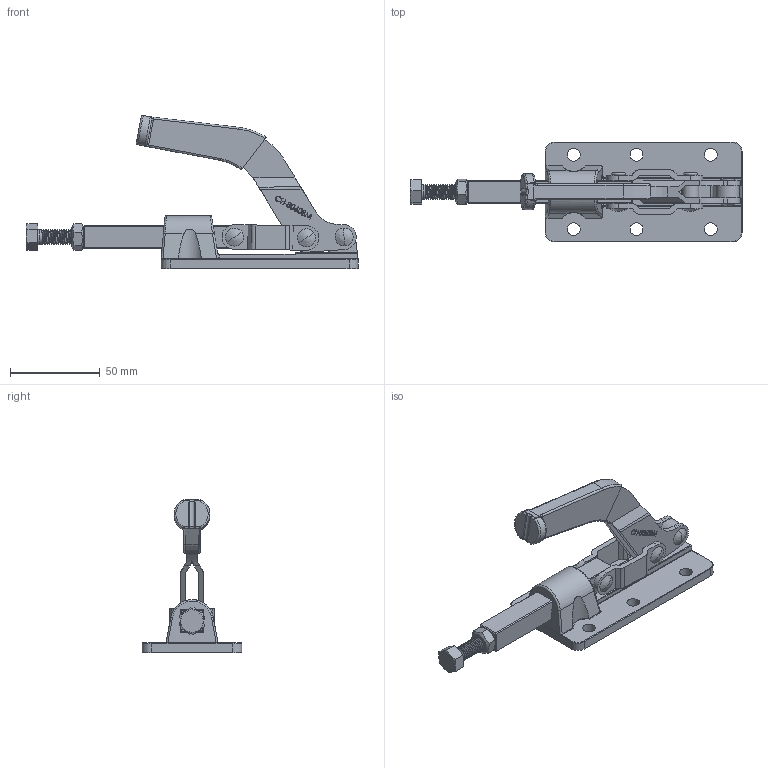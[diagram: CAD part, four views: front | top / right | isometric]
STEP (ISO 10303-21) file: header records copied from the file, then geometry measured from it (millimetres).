
FILE_DESCRIPTION(/* description */ ('STEP AP203'),/* implementation_level */ '2;1');
FILE_NAME(/* name */ 'D:\Vault_2016\Projekty\STRONA\Push-pull clamp\CH-30608M\CH-30608M_ZAMKNIETY.stp',/* time_stamp */ '2019-01-10T16:38:18+01:00',/* author */ ('user'),/* organization */ ('Î¢ÈíÖÐ¹ú'),/* preprocessor_version */ 'ST-DEVELOPER v17.2',/* originating_system */ 'Autodesk Inventor 2019',/* authorisation */ '');
FILE_SCHEMA (('AUTOMOTIVE_DESIGN { 1 0 10303 214 3 1 1 }'));
Products named in the file (10): CH-30608M_ZAMKNIETY; CH-SA-085012 SPINDLE SUPPLIED; CH-30607-05; CH-30608-02 CREST STALK; M8 NUT; CH-30608-03 HANDLE; CH-30607-04 CONNECTING-PLATE; CH-30608-01 BASE; CH-30607-06; CH-30607-07
Assembly tree (11 placements, depth 2):
  CH-30608M_ZAMKNIETY
    CH-SA-085012 SPINDLE SUPPLIED
    CH-30607-05
    CH-30607-07  x2
    CH-30608-02 CREST STALK
    M8 NUT
    CH-30607-04 CONNECTING-PLATE  x2
    CH-30608-03 HANDLE
    CH-30608-01 BASE
    CH-30607-06
Bounding box: 184.69 x 55.6 x 85.14 mm (x, y, z)
Volume: 89736.3 mm3; surface area: 44462.2 mm2
Topology: 11 solids, 12 shells, 735 faces, 2025 edges, 1342 vertices
Faces by surface type: plane 279, bspline 239, cylinder 174, torus 25, cone 14, sphere 4
Full cylindrical faces by diameter (mm): 2.062 x1, 2.405 x1, 5.8 x3, 6.4 x12, 6.5 x4, 6.8 x19, 7.1 x6, 8 x37, 9.5 x3
Entity records: 59818 total; most frequent: CARTESIAN_POINT 43137, ORIENTED_EDGE 3858, DIRECTION 2589, EDGE_CURVE 1929, VERTEX_POINT 1282, LINE 961, VECTOR 961, AXIS2_PLACEMENT_3D 814
